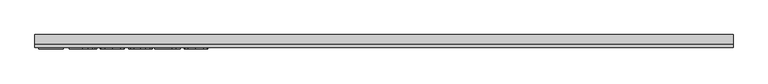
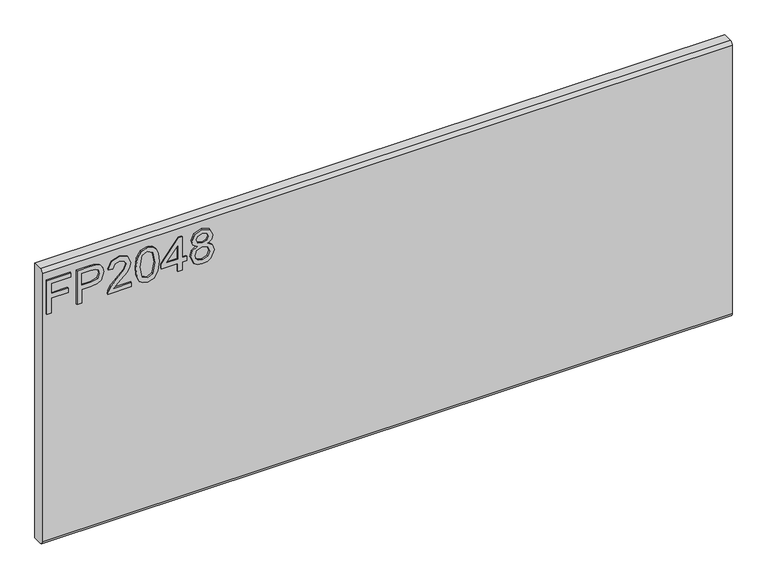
"""IFC4 building model written with IfcOpenShell, lengths in millimetres: furniture geometry."""

from ifc_helpers import new_model, si_unit, frame, origin, place, context, project, spatial, polyline, circle_curve, outline, extrude, source, transform, mapped, element, save
from ifc_brep_helpers import plane_surface, cylinder_surface, advanced_brep


def furniture_083f9362(model_context):
    return source(origin(), model_context, "Body", "SolidModel", [
        extrude(outline(polyline([(577.85, -596.4115385), (577.85, -588.5961538), (606.1807692, -588.5961538), (606.1807692, -559.2884615), (613.9961538, -559.2884615), (613.9961538, -588.5961538), (632.5576923, -588.5961538), (632.5576923, -554.4038462), (640.3730769, -554.4038462), (640.3730769, -596.4115385), (577.85, -596.4115385)])), frame((0.0, -15.0812439, 0.0), z_axis=(0.0, 1.0, 0.0), x_axis=(0.0, 0.0, 1.0)), (0.0, 0.0, 1.0), 2.38125),
        extrude(outline(polyline([(577.85, -543.6576923), (577.85, -535.8423077), (603.25, -535.8423077), (603.25, -519.9520433), (604.6314303, -508.8490835), (608.7757212, -501.795012), (622.2847356, -496.7653846), (630.8099159, -498.6276442), (636.8546274, -503.5504207), (639.7777644, -511.1444712), (640.3730769, -520.4862981), (640.3730769, -543.6576923), (577.85, -543.6576923)]), holes=[polyline([(611.0653846, -535.8423077), (632.5576923, -535.8423077), (632.5576923, -519.6772837), (632.0234375, -511.861899), (628.4820913, -506.5880409), (622.009976, -504.5807692), (613.9350962, -507.9847356), (611.0653846, -519.4941106), (611.0653846, -535.8423077)])]), frame((0.0, -15.0812439, 0.0), z_axis=(0.0, 1.0, 0.0), x_axis=(0.0, 0.0, 1.0)), (0.0, 0.0, 1.0), 2.38125),
        extrude(outline(polyline([(585.6653846, -448.8961538), (585.6653846, -479.5929087), (589.6417668, -476.0668269), (597.1594952, -467.0760817), (607.867488, -455.8796274), (615.5302284, -451.2621394), (622.9411058, -449.8730769), (635.3663462, -455.0248197), (640.3730769, -469.0146635), (635.8700721, -482.9587139), (622.7884615, -488.95), (621.8115385, -481.1346154), (629.7032452, -477.8451322), (632.5576923, -469.1825721), (629.6345553, -460.8710938), (622.4679087, -457.6884615), (613.6145433, -461.061899), (600.5939904, -474.555649), (591.5345553, -484.3401442), (583.2383413, -489.0873798), (577.85, -489.9269231), (577.85, -448.8961538), (585.6653846, -448.8961538)])), frame((0.0, -15.0812439, 0.0), z_axis=(0.0, 1.0, 0.0), x_axis=(0.0, 0.0, 1.0)), (0.0, 0.0, 1.0), 2.38125),
        extrude(outline(polyline([(608.6078125, -441.0807692), (593.400631, -439.5237981), (582.8262019, -434.8528846), (578.3613582, -428.6860577), (576.8730769, -420.5653846), (580.2999399, -409.1246995), (590.695012, -402.324399), (608.6078125, -400.05), (623.2998197, -401.4695913), (632.5500601, -405.1330529), (638.3581731, -411.4372596), (640.3730769, -420.5653846), (636.9691106, -431.9602764), (626.5969351, -438.7834736), (608.6078125, -441.0807692)]), holes=[polyline([(608.6230769, -433.2653846), (628.3752404, -429.4798077), (632.5576923, -420.6569712), (627.8104567, -411.4067308), (608.6230769, -407.8653846), (589.2296274, -411.5288462), (584.6884615, -420.5653846), (589.214363, -429.6019231), (608.6230769, -433.2653846)])]), frame((0.0, -15.0812439, 0.0), z_axis=(0.0, 1.0, 0.0), x_axis=(0.0, 0.0, 1.0)), (0.0, 0.0, 1.0), 2.38125),
        extrude(outline(polyline([(577.85, -367.8115385), (577.85, -359.9961538), (592.5038462, -359.9961538), (592.5038462, -352.1807692), (600.3192308, -352.1807692), (600.3192308, -359.9961538), (639.3961538, -359.9961538), (639.3961538, -365.8576923), (600.3192308, -396.1423077), (592.5038462, -396.1423077), (592.5038462, -367.8115385), (577.85, -367.8115385)]), holes=[polyline([(600.3192308, -367.8115385), (600.3192308, -386.5257212), (624.4675481, -367.8115385), (600.3192308, -367.8115385)])]), frame((0.0, -15.0812439, 0.0), z_axis=(0.0, 1.0, 0.0), x_axis=(0.0, 0.0, 1.0)), (0.0, 0.0, 1.0), 2.38125),
        extrude(outline(polyline([(612.2865385, -333.9550481), (606.6081731, -342.3810096), (596.2588942, -345.3423077), (582.4216947, -339.6944712), (578.2602314, -333.1536659), (576.8730769, -324.8269231), (578.2545072, -316.5001803), (582.3987981, -309.959375), (596.0451923, -304.3115385), (606.1578726, -307.1583534), (612.2865385, -315.4698317), (617.1177284, -308.5474159), (624.4828125, -306.2653846), (635.7479567, -311.3942308), (640.3730769, -324.933774), (635.8548077, -338.3512019), (624.6965144, -343.3884615), (617.140625, -341.0759014), (612.2865385, -333.9550481)]), holes=[polyline([(624.4675481, -335.5730769), (630.1764423, -332.7567909), (632.5576923, -324.8269231), (630.1230168, -316.9199519), (624.1164663, -314.0807692), (618.3159856, -316.8283654), (615.95, -324.7353365), (618.33125, -332.8025841), (624.4675481, -335.5730769)]), polyline([(596.5336538, -337.5269231), (604.8222356, -334.2221755), (608.1346154, -325.0253606), (604.7764423, -315.5614183), (596.2894231, -312.1269231), (587.9626803, -315.4545673), (584.6884615, -324.7658654), (586.2454327, -331.6043269), (590.6492188, -336.2218149), (596.5336538, -337.5269231)])]), frame((0.0, -15.0812439, 0.0), z_axis=(0.0, 1.0, 0.0), x_axis=(0.0, 0.0, 1.0)), (0.0, 0.0, 1.0), 2.38125),
        advanced_brep(
        [(603.25, 9.5250061, 660.4), (603.25, -6.7309939, 660.4), (603.25, -12.6999939, 654.431), (603.25, -12.6999939, 158.369), (603.25, -6.7309939, 152.4), (603.25, 9.5250061, 152.4), (-603.25, 9.5250061, 660.4), (-603.25, 9.5250061, 152.4), (-603.25, -6.7309939, 152.4), (-603.25, -12.6999939, 158.369), (-603.25, -12.6999939, 654.4310121), (-603.25, -6.7309939, 660.4)],
        [
            (0, 1),
            (1, 2, circle_curve(frame((603.25, -6.7309939, 654.431), z_axis=(1.0, 0.0, 0.0), x_axis=(0.0, 1.0, 0.0)), 5.969)),
            (2, 3),
            (3, 4, circle_curve(frame((603.25, -6.7309939, 158.369), z_axis=(1.0, 0.0, 0.0), x_axis=(0.0, 1.0, 0.0)), 5.969)),
            (4, 5),
            (5, 0),
            (6, 7),
            (7, 8),
            (8, 9, circle_curve(frame((-603.25, -6.7309939, 158.369), z_axis=(-1.0, 0.0, 0.0), x_axis=(0.0, 1.0, 0.0)), 5.969)),
            (9, 10),
            (10, 11, circle_curve(frame((-603.25, -6.7309939, 654.431), z_axis=(-1.0, 0.0, 0.0), x_axis=(0.0, 1.0, 0.0)), 5.969)),
            (11, 6),
            (0, 6),
            (11, 1),
            (10, 2),
            (9, 3),
            (8, 4),
            (7, 5),
        ],
        [
            plane_surface(frame((603.25, -6.7309939, 660.4), z_axis=(1.0, 0.0, 0.0), x_axis=(0.0, -1.0, 0.0))),
            plane_surface(frame((-603.25, -6.7309939, 660.4), z_axis=(-1.0, 0.0, 0.0), x_axis=(0.0, 1.0, 0.0))),
            plane_surface(frame((603.25, 9.5250061, 660.4), z_axis=(0.0, 0.0, 1.0), x_axis=(-1.0, 0.0, 0.0))),
            cylinder_surface(frame((-603.25, -6.7309939, 654.431), z_axis=(1.0, 0.0, 0.0), x_axis=(0.0, 1.0, 0.0)), 5.969),
            plane_surface(frame((603.25, -12.6999939, 654.4310121), z_axis=(0.0, -1.0, 0.0), x_axis=(-1.0, 0.0, 0.0))),
            cylinder_surface(frame((-603.25, -6.7309939, 158.369), z_axis=(1.0, 0.0, 0.0), x_axis=(0.0, 1.0, 0.0)), 5.969),
            plane_surface(frame((603.25, -6.7309939, 152.4), z_axis=(0.0, 0.0, -1.0), x_axis=(-1.0, 0.0, 0.0))),
            plane_surface(frame((603.25, 9.5250061, 152.4), z_axis=(0.0, 1.0, 0.0), x_axis=(-1.0, 0.0, 0.0))),
        ],
        [
            (0, [[1, 2, 3, 4, 5, 6]]),
            (1, [[7, 8, 9, 10, 11, 12]]),
            (2, [[-1, 13, -12, 14]]),
            (3, [[-2, -14, -11, 15]]),
            (4, [[-3, -15, -10, 16]]),
            (5, [[-4, -16, -9, 17]]),
            (6, [[-5, -17, -8, 18]]),
            (7, [[-6, -18, -7, -13]]),
        ],
    ),
    ])


if __name__ == "__main__":
    model = new_model("IFC4")
    model_context = context("Model", 3, world=origin())
    ifc_project = project(units=[si_unit("LENGTHUNIT", "METRE", prefix="MILLI")], contexts=[model_context])
    site = spatial("IfcSite", under=ifc_project)
    building = spatial("IfcBuilding", under=site)
    placement = place(None, origin())
    furniture_shape = furniture_083f9362(model_context)
    element("IfcFurniture", 1, ObjectType="HermanMiller_Ethospace_E1420_FaceTile : Ptd 20\"H x 48\"W", at=placement, inside=building, context=model_context, shape_type="MappedRepresentation", body=[
        mapped(furniture_shape, transform((0.0, 0.0, 0.0), x_axis=(1.0, 0.0, 0.0), y_axis=(0.0, 1.0, 0.0), z_axis=(0.0, 0.0, 1.0))),
    ])
    save(model, "model.ifc")
